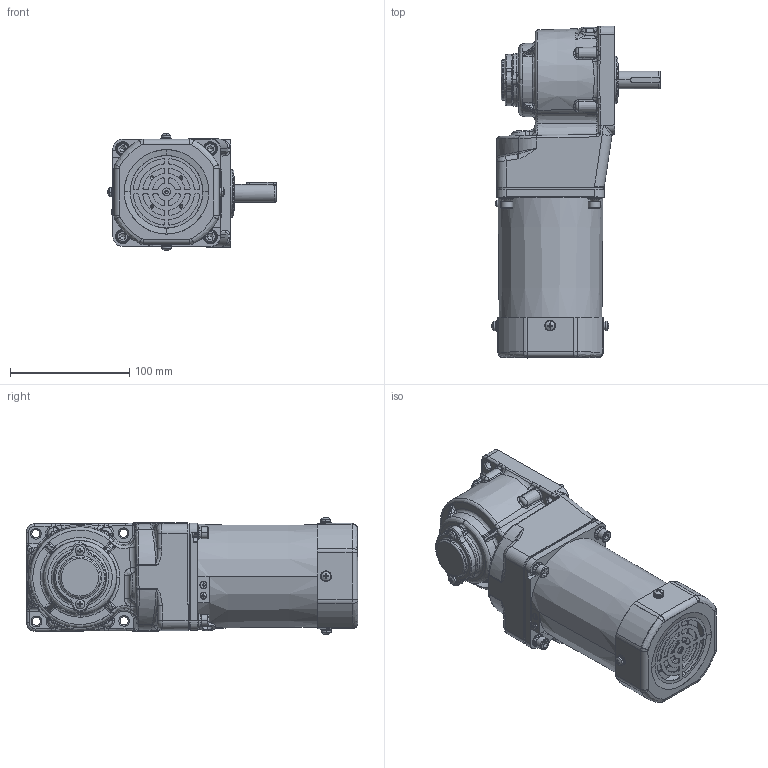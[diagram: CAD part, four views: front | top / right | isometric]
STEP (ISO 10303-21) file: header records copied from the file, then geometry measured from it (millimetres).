
FILE_DESCRIPTION (( 'STEP AP203' ), '1' );
FILE_NAME ('5IK90GU-CF(5GU3RT-180RT)ÐÂ.STEP', '2022-02-24T03:32:11', ( 'PC' ), ( 'Microsoft' ), 'SwSTEP 2.0', 'SolidWorks 2014', '' );
FILE_SCHEMA (( 'CONFIG_CONTROL_DESIGN' ));
Length unit declared in the file: millimetre
Products named in the file (9): zd-5gu-50rc-504-001m#眊极禱矗 2021-12-07 - 萵掛; 90妗陑怀堤粣; 90壔裔; ZD-5GU50RC-505-003綴傷裔; 90RT妗陑怀堤傷裔; hexagon socket head cap screws gb_GB_FASTENER_SCREWS_HSHCS M5X12-N; cross recessed pan head screws gb_GB_CROSS_SCREWS_TYPE1 M4X6-6  H type-N; 5IK90GU-CF(5GU3RT-180RT); 5IK90GU-CF(5GU3RT-180RT)陔
Assembly tree (12 placements, depth 2):
  5IK90GU-CF(5GU3RT-180RT)陔
    zd-5gu-50rc-504-001m#眊极禱矗 2021-12-07 - 萵掛
    90妗陑怀堤粣
    90壔裔
    ZD-5GU50RC-505-003綴傷裔
    90RT妗陑怀堤傷裔
    hexagon socket head cap screws gb_GB_FASTENER_SCREWS_HSHCS M5X12-N  x4
    cross recessed pan head screws gb_GB_CROSS_SCREWS_TYPE1 M4X6-6  H type-N  x2
    5IK90GU-CF(5GU3RT-180RT)
Bounding box: 141.25 x 278.46 x 98.12 mm (x, y, z)
Volume: 1617923.4 mm3; surface area: 208409.5 mm2
Topology: 45 solids, 45 shells, 2237 faces, 5512 edges, 3322 vertices
Faces by surface type: plane 677, cylinder 569, bspline 481, cone 411, torus 93, sphere 6
Entity records: 89003 total; most frequent: CARTESIAN_POINT 41239, ORIENTED_EDGE 10336, DIRECTION 9042, EDGE_CURVE 5168, AXIS2_PLACEMENT_3D 3589, VERTEX_POINT 3182, EDGE_LOOP 2290, FACE_OUTER_BOUND 2138
